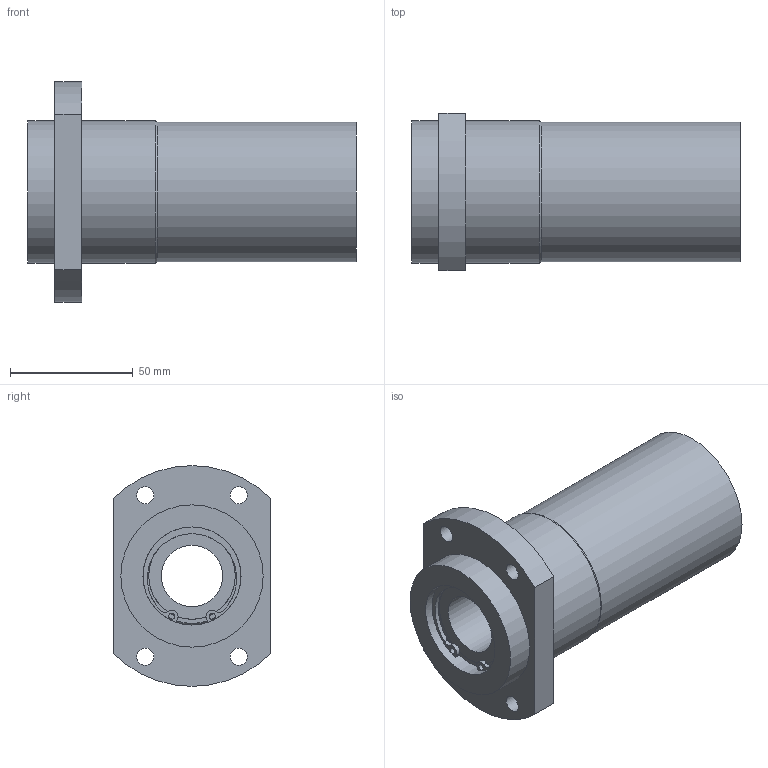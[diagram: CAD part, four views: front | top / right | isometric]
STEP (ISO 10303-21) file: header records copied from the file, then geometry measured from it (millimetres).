
FILE_DESCRIPTION((''),'2;1');
FILE_NAME('C:\Documents and Settings\土屋\My Documents\土屋移動用フォルダ\製品 (図面)\カタログ用3D\変換ファイル\OZAK_3D-CAD(STEP形式)\Part1.-Linear Bearings_ﾘﾆｱﾍﾞｱﾘﾝｸﾞ\09_Maintenance Free_ﾒｲﾝﾃﾅﾝｽﾌﾘｰ\L2017-09-22T13:32:54','2017-09-22T13:32:54',('y'),(''),'Autodesk Inventor 11','Autodesk Inventor 11','');
FILE_SCHEMA(('AUTOMOTIVE_DESIGN { 1 0 10303 214 1 1 1 1 }'));
Length unit declared in the file: millimetre
Products named in the file (1): LFWB25MF
Bounding box: 134 x 64 x 90 mm (x, y, z)
Volume: 299369.4 mm3; surface area: 48617.6 mm2
Topology: 1 solids, 3 shells, 71 faces, 199 edges, 122 vertices
Faces by surface type: plane 29, cylinder 25, bspline 14, torus 2, cone 1
Full cylindrical faces by diameter (mm): 2.5 x2, 7 x4, 25 x1, 35.3 x2, 38 x2, 40 x4, 57 x1, 58 x2
Entity records: 2228 total; most frequent: CARTESIAN_POINT 476, DIRECTION 396, ORIENTED_EDGE 316, AXIS2_PLACEMENT_3D 180, EDGE_CURVE 158, CIRCLE 122, EDGE_LOOP 118, VERTEX_POINT 106
